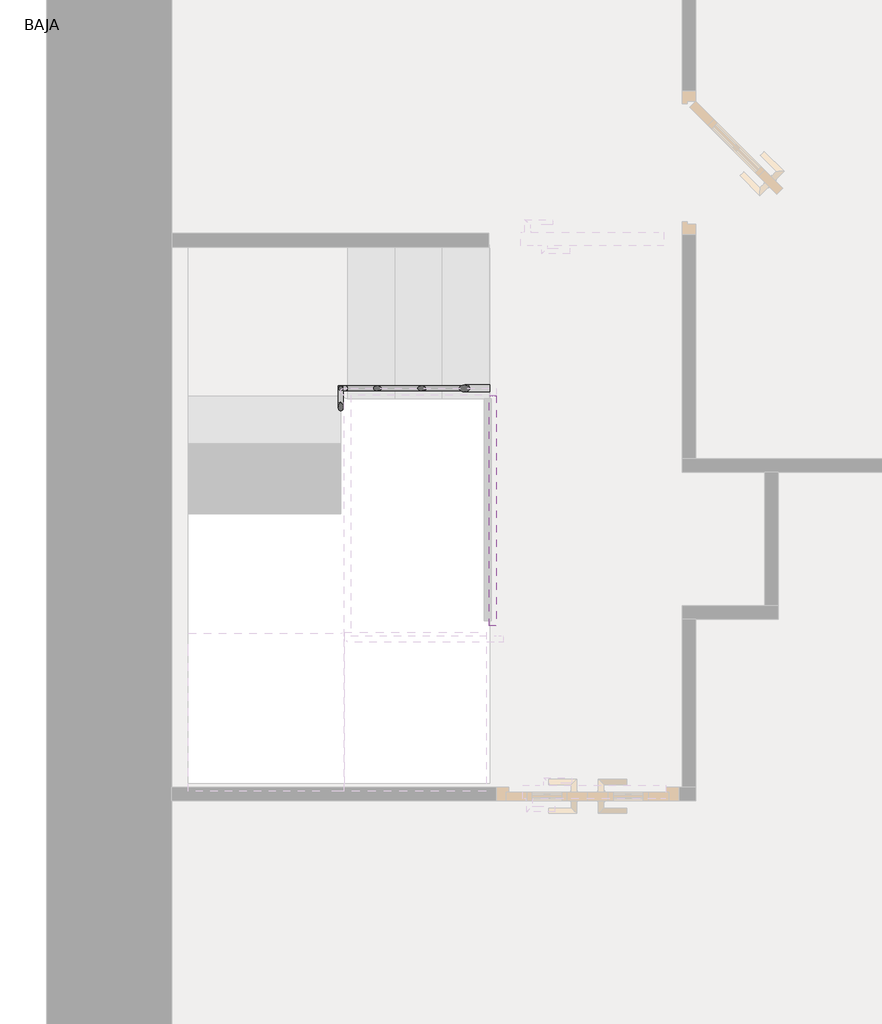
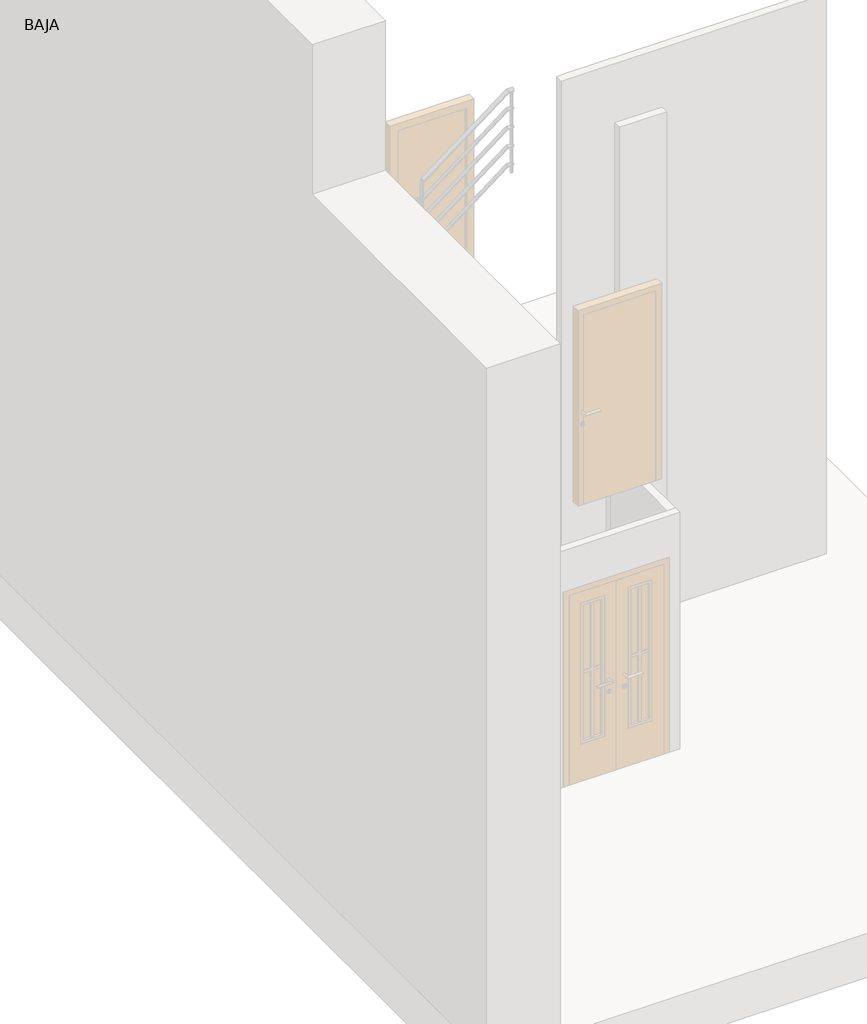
# One storey, part 2 of 3: 2 railings.
"""IFC4 building model written with IfcOpenShell, lengths in millimetres."""

from ifc_helpers import new_model, si_unit, point, frame, frame_2d, origin, place, context, project, spatial, circle_curve, ellipse_curve, trimmed, segment, composite_curve, outline, extrude, element, save
from ifc_brep_helpers import plane_surface, cylinder_surface, advanced_brep

model = new_model("IFC4")

# Units and contexts
model_context = context("Model", 3, world=origin())
ifc_project = project(units=[si_unit("LENGTHUNIT", "METRE", prefix="MILLI")], contexts=[model_context])

# Site, building, storey
site = spatial("IfcSite", under=ifc_project)
building = spatial("IfcBuilding", under=site)
storey = spatial("IfcBuildingStorey", under=building, Name="BAJA", Elevation=4000.0)

# Railings
placement = place(None, origin())
element("IfcRailing", 1, ObjectType="Tubería 900 mm", at=placement, inside=storey, context=model_context, shape_type="SolidModel", body=[
    advanced_brep(
    [(-5082.9130424, -10384.2358592, 5087.9516089), (-5082.9130424, -10424.2358592, 5087.9516089), (-5942.4217865, -10384.2358592, 5745.738913), (-5942.4217865, -10424.2358592, 5745.738913), (-5984.8950445, -10384.2358592, 5943.5301894), (-5980.7116824, -10424.2358592, 5924.0489309)],
    [
        (0, 1, ellipse_curve(frame((-5082.9130424, -10404.2358592, 5087.9516089), z_axis=(1.0, 0.0, 0.0), x_axis=(0.0, 0.0, -1.0)), 25.1848642, 20.0)),
        (1, 0, ellipse_curve(frame((-5082.9130424, -10404.2358592, 5087.9516089), z_axis=(1.0, 0.0, 0.0), x_axis=(0.0, 0.0, -1.0)), 25.1848642, 20.0)),
        (0, 2),
        (2, 3, ellipse_curve(frame((-5942.4217865, -10404.2358592, 5745.738913), z_axis=(0.5350342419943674, 0.0, -0.8448303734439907), x_axis=(0.8448303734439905, 0.0, 0.5350342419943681)), 21.3144193, 20.0)),
        (3, 1),
        (3, 2, ellipse_curve(frame((-5942.4217865, -10404.2358592, 5745.738913), z_axis=(0.5350342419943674, 0.0, -0.8448303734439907), x_axis=(0.8448303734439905, 0.0, 0.5350342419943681)), 21.3144193, 20.0)),
        (4, 5, ellipse_curve(frame((-5982.8033634, -10404.2358592, 5933.7895602), z_axis=(-0.11757965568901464, -0.44473701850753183, 0.8879099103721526), x_axis=(0.2330510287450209, -0.8814996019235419, -0.41066491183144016)), 22.4012828, 20.0)),
        (5, 4, ellipse_curve(frame((-5982.8033634, -10404.2358592, 5933.7895602), z_axis=(-0.11757965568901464, -0.44473701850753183, 0.8879099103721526), x_axis=(0.2330510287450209, -0.8814996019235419, -0.41066491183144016)), 22.4012828, 20.0)),
        (2, 4),
        (5, 3),
    ],
    [
        plane_surface(frame((-5082.9130424, -10404.2358592, 5113.1364731), z_axis=(1.0, 0.0, 0.0), x_axis=(0.0, -1.0, 0.0))),
        cylinder_surface(frame((-5095.0680593, -10404.2358592, 5097.2539177), z_axis=(0.7941277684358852, 0.0, -0.6077508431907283), x_axis=(0.0, -1.0, 0.0)), 20.0),
        plane_surface(frame((-5962.9130424, -10404.2358592, 5936.4234953), z_axis=(-0.11757965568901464, -0.44473701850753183, 0.8879099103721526), x_axis=(0.9930634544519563, -0.052657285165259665, 0.10512937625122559))),
        cylinder_surface(frame((-5943.968953, -10404.2358592, 5752.9438242), z_axis=(0.2099516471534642, 0.0, -0.9777117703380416), x_axis=(0.0, -1.0, 0.0)), 20.0),
    ],
    [
        (0, [[1, 2]]),
        (1, [[-1, 3, 4, 5]]),
        (1, [[-2, -5, 6, -3]]),
        (2, [[7, 8]]),
        (3, [[-4, 9, -8, 10]]),
        (3, [[-6, -10, -7, -9]]),
    ],
),
    advanced_brep(
    [(-5982.9130424, -10422.0344992, 5924.8600393), (-5942.9130424, -10426.2178612, 5928.0615919), (-5982.9130424, -11849.9758253, 7017.6722787), (-5942.9130424, -11849.9758253, 7017.6722787)],
    [
        (0, 1, ellipse_curve(frame((-5962.9130424, -10424.1261802, 5926.4608156), z_axis=(0.11757965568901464, 0.44473701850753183, -0.8879099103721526), x_axis=(-0.23305102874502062, 0.881499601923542, 0.4106649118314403)), 22.4012828, 20.0)),
        (1, 0, ellipse_curve(frame((-5962.9130424, -10424.1261802, 5926.4608156), z_axis=(0.11757965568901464, 0.44473701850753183, -0.8879099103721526), x_axis=(-0.23305102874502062, 0.881499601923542, 0.4106649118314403)), 22.4012828, 20.0)),
        (2, 3, ellipse_curve(frame((-5962.9130424, -11849.9758253, 7017.6722787), z_axis=(0.0, -1.0, 0.0), x_axis=(0.0, 0.0, -1.0)), 25.1848642, 20.0)),
        (3, 2, ellipse_curve(frame((-5962.9130424, -11849.9758253, 7017.6722787), z_axis=(0.0, -1.0, 0.0), x_axis=(0.0, 0.0, -1.0)), 25.1848642, 20.0)),
        (0, 2),
        (3, 1),
    ],
    [
        plane_surface(frame((-5962.9130424, -10404.2358592, 5936.4234953), z_axis=(0.11757965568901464, 0.44473701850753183, -0.8879099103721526), x_axis=(0.9930634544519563, -0.052657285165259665, 0.10512937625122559))),
        plane_surface(frame((-5962.9130424, -11849.9758253, 7042.8571429), z_axis=(0.0, -1.0, 0.0), x_axis=(0.0, 0.0, -1.0))),
        cylinder_surface(frame((-5962.9130424, -10416.390876, 5920.5409399), z_axis=(0.0, 0.7941277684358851, -0.6077508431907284), x_axis=(1.0, 0.0, 0.0)), 20.0),
    ],
    [
        (0, [[1, 2]]),
        (1, [[3, 4]]),
        (2, [[-1, 5, -4, 6]]),
        (2, [[-2, -6, -3, -5]]),
    ],
),
    advanced_brep(
    [(-5962.9130424, -11884.9758253, 7216.6518705), (-5962.9130424, -11844.9758253, 7216.6518705), (-5096.1381532, -11884.9758253, 7880.0), (-5096.1381532, -11844.9758253, 7880.0), (-5041.7727861, -11884.9758253, 7880.0), (-5041.7727861, -11844.9758253, 7880.0)],
    [
        (0, 1, ellipse_curve(frame((-5962.9130424, -11864.9758253, 7216.6518705), z_axis=(-1.0, 0.0, 0.0), x_axis=(0.0, 0.0, -1.0)), 25.1848642, 20.0)),
        (1, 0, ellipse_curve(frame((-5962.9130424, -11864.9758253, 7216.6518705), z_axis=(-1.0, 0.0, 0.0), x_axis=(0.0, 0.0, -1.0)), 25.1848642, 20.0)),
        (0, 2),
        (2, 3, ellipse_curve(frame((-5096.1381532, -11864.9758253, 7880.0), z_axis=(-0.9471345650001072, 0.0, -0.3208365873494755), x_axis=(0.32083658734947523, 0.0, -0.9471345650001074)), 21.1163236, 20.0)),
        (3, 1),
        (3, 2, ellipse_curve(frame((-5096.1381532, -11864.9758253, 7880.0), z_axis=(-0.9471345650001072, 0.0, -0.3208365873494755), x_axis=(0.32083658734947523, 0.0, -0.9471345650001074)), 21.1163236, 20.0)),
        (4, 5, circle_curve(frame((-5041.7727861, -11864.9758253, 7880.0), z_axis=(1.0, 0.0, 0.0), x_axis=(0.0, 1.0, 0.0)), 20.0)),
        (5, 4, circle_curve(frame((-5041.7727861, -11864.9758253, 7880.0), z_axis=(1.0, 0.0, 0.0), x_axis=(0.0, 1.0, 0.0)), 20.0)),
        (2, 4),
        (5, 3),
    ],
    [
        plane_surface(frame((-5962.9130424, -11864.9758253, 7241.8367347), z_axis=(-1.0, 0.0, 0.0), x_axis=(0.0, 1.0, 0.0))),
        cylinder_surface(frame((-5950.7580256, -11864.9758253, 7225.9541793), z_axis=(-0.7941277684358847, 0.0, -0.6077508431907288), x_axis=(0.0, 1.0, 0.0)), 20.0),
        plane_surface(frame((-5041.7727861, -11864.9758253, 7900.0), z_axis=(1.0, 0.0, 0.0), x_axis=(0.0, 1.0, 0.0))),
        cylinder_surface(frame((-5102.9130424, -11864.9758253, 7880.0), z_axis=(-1.0, 0.0, 0.0), x_axis=(0.0, 1.0, 0.0)), 20.0),
    ],
    [
        (0, [[1, 2]]),
        (1, [[-1, 3, 4, 5]]),
        (1, [[-2, -5, 6, -3]]),
        (2, [[7, 8]]),
        (3, [[-4, 9, -8, 10]]),
        (3, [[-6, -10, -7, -9]]),
    ],
),
    advanced_brep(
    [(-5041.7727861, -11879.9758253, 7685.0), (-5041.7727861, -11849.9758253, 7685.0), (-5097.8318755, -11879.9758253, 7685.0), (-5097.8318755, -11849.9758253, 7685.0), (-5977.9130424, -11879.9758253, 7011.4684947), (-5977.9130424, -11849.9758253, 7011.4684947)],
    [
        (0, 1, circle_curve(frame((-5041.7727861, -11864.9758253, 7685.0), z_axis=(1.0, 0.0, 0.0), x_axis=(0.0, 1.0, 0.0)), 15.0)),
        (1, 0, circle_curve(frame((-5041.7727861, -11864.9758253, 7685.0), z_axis=(1.0, 0.0, 0.0), x_axis=(0.0, 1.0, 0.0)), 15.0)),
        (0, 2),
        (2, 3, ellipse_curve(frame((-5097.8318755, -11864.9758253, 7685.0), z_axis=(0.9471345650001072, 0.0, 0.3208365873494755), x_axis=(0.3208365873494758, 0.0, -0.9471345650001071)), 15.8372427, 15.0)),
        (3, 1),
        (3, 2, ellipse_curve(frame((-5097.8318755, -11864.9758253, 7685.0), z_axis=(0.9471345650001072, 0.0, 0.3208365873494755), x_axis=(0.3208365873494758, 0.0, -0.9471345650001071)), 15.8372427, 15.0)),
        (4, 5, ellipse_curve(frame((-5977.9130424, -11864.9758253, 7011.4684947), z_axis=(-1.0, 0.0, 0.0), x_axis=(0.0, 0.0, 1.0)), 18.8886481, 15.0)),
        (5, 4, ellipse_curve(frame((-5977.9130424, -11864.9758253, 7011.4684947), z_axis=(-1.0, 0.0, 0.0), x_axis=(0.0, 0.0, 1.0)), 18.8886481, 15.0)),
        (2, 4),
        (5, 3),
    ],
    [
        plane_surface(frame((-5041.7727861, -11864.9758253, 7700.0), z_axis=(1.0, 0.0, 0.0), x_axis=(0.0, -1.0, 0.0))),
        cylinder_surface(frame((-5041.7727861, -11864.9758253, 7685.0), z_axis=(1.0, 0.0, 0.0), x_axis=(0.0, 1.0, 0.0)), 15.0),
        plane_surface(frame((-5977.9130424, -11864.9758253, 7030.3571429), z_axis=(-1.0, 0.0, 0.0), x_axis=(0.0, -1.0, 0.0))),
        cylinder_surface(frame((-5093.7967798, -11864.9758253, 7688.0880835), z_axis=(0.7941277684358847, 0.0, 0.6077508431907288), x_axis=(0.0, 1.0, 0.0)), 15.0),
    ],
    [
        (0, [[1, 2]]),
        (1, [[-1, 3, 4, 5]]),
        (1, [[-2, -5, 6, -3]]),
        (2, [[7, 8]]),
        (3, [[-4, 9, -8, 10]]),
        (3, [[-6, -10, -7, -9]]),
    ],
),
    advanced_brep(
    [(-5977.9130424, -11864.9758253, 6827.8571429), (-5947.9130424, -11864.9758253, 6827.8571429), (-5977.9130424, -11855.0569922, 6827.8571429), (-5947.9130424, -11855.0569922, 6827.8571429), (-5977.9130424, -10389.2358592, 5706.0552553), (-5947.9130424, -10389.2358592, 5706.0552553)],
    [
        (0, 1, circle_curve(frame((-5962.9130424, -11864.9758253, 6827.8571429), z_axis=(0.0, -1.0, 0.0), x_axis=(1.0, 0.0, 0.0)), 15.0)),
        (1, 0, circle_curve(frame((-5962.9130424, -11864.9758253, 6827.8571429), z_axis=(0.0, -1.0, 0.0), x_axis=(1.0, 0.0, 0.0)), 15.0)),
        (0, 2),
        (2, 3, ellipse_curve(frame((-5962.9130424, -11855.0569922, 6827.8571429), z_axis=(0.0, -0.9471345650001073, 0.3208365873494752), x_axis=(0.0, -0.3208365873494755, -0.9471345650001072)), 15.8372427, 15.0)),
        (3, 1),
        (3, 2, ellipse_curve(frame((-5962.9130424, -11855.0569922, 6827.8571429), z_axis=(0.0, -0.9471345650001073, 0.3208365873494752), x_axis=(0.0, -0.3208365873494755, -0.9471345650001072)), 15.8372427, 15.0)),
        (4, 5, ellipse_curve(frame((-5962.9130424, -10389.2358592, 5706.0552553), z_axis=(0.0, 1.0, 0.0), x_axis=(0.0, 0.0, 1.0)), 18.8886481, 15.0)),
        (5, 4, ellipse_curve(frame((-5962.9130424, -10389.2358592, 5706.0552553), z_axis=(0.0, 1.0, 0.0), x_axis=(0.0, 0.0, 1.0)), 18.8886481, 15.0)),
        (2, 4),
        (5, 3),
    ],
    [
        plane_surface(frame((-5962.9130424, -11864.9758253, 6842.8571429), z_axis=(0.0, -1.0, 0.0), x_axis=(0.0, 0.0, 1.0))),
        cylinder_surface(frame((-5962.9130424, -11864.9758253, 6827.8571429), z_axis=(0.0, -1.0, 0.0), x_axis=(1.0, 0.0, 0.0)), 15.0),
        plane_surface(frame((-5962.9130424, -10389.2358592, 5724.9439035), z_axis=(0.0, 1.0, 0.0), x_axis=(0.0, 0.0, 1.0))),
        cylinder_surface(frame((-5962.9130424, -11859.092088, 6830.9452263), z_axis=(0.0, -0.7941277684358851, 0.6077508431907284), x_axis=(1.0, 0.0, 0.0)), 15.0),
    ],
    [
        (0, [[1, 2]]),
        (1, [[-1, 3, 4, 5]]),
        (1, [[-2, -5, 6, -3]]),
        (2, [[7, 8]]),
        (3, [[-4, 9, -8, 10]]),
        (3, [[-6, -10, -7, -9]]),
    ],
),
    advanced_brep(
    [(-5947.9130424, -10389.2358592, 5542.1428571), (-5947.9130424, -10419.2358592, 5542.1428571), (-5929.4958845, -10389.2358592, 5542.1428571), (-5929.4958845, -10419.2358592, 5542.1428571), (-5082.9130424, -10389.2358592, 4894.2478249), (-5082.9130424, -10419.2358592, 4894.2478249)],
    [
        (0, 1, circle_curve(frame((-5947.9130424, -10404.2358592, 5542.1428571), z_axis=(-1.0, 0.0, 0.0), x_axis=(0.0, -1.0, 0.0)), 15.0)),
        (1, 0, circle_curve(frame((-5947.9130424, -10404.2358592, 5542.1428571), z_axis=(-1.0, 0.0, 0.0), x_axis=(0.0, -1.0, 0.0)), 15.0)),
        (0, 2),
        (2, 3, ellipse_curve(frame((-5929.4958845, -10404.2358592, 5542.1428571), z_axis=(-0.9471345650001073, 0.0, 0.3208365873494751), x_axis=(-0.3208365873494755, 0.0, -0.9471345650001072)), 15.8372427, 15.0)),
        (3, 1),
        (3, 2, ellipse_curve(frame((-5929.4958845, -10404.2358592, 5542.1428571), z_axis=(-0.9471345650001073, 0.0, 0.3208365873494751), x_axis=(-0.3208365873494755, 0.0, -0.9471345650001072)), 15.8372427, 15.0)),
        (4, 5, ellipse_curve(frame((-5082.9130424, -10404.2358592, 4894.2478249), z_axis=(1.0, 0.0, 0.0), x_axis=(0.0, 0.0, 1.0)), 18.8886481, 15.0)),
        (5, 4, ellipse_curve(frame((-5082.9130424, -10404.2358592, 4894.2478249), z_axis=(1.0, 0.0, 0.0), x_axis=(0.0, 0.0, 1.0)), 18.8886481, 15.0)),
        (2, 4),
        (5, 3),
    ],
    [
        plane_surface(frame((-5947.9130424, -10404.2358592, 5557.1428571), z_axis=(-1.0, 0.0, 0.0), x_axis=(0.0, 1.0, 0.0))),
        cylinder_surface(frame((-5947.9130424, -10404.2358592, 5542.1428571), z_axis=(-1.0, 0.0, 0.0), x_axis=(0.0, -1.0, 0.0)), 15.0),
        plane_surface(frame((-5082.9130424, -10404.2358592, 4913.1364731), z_axis=(1.0, 0.0, 0.0), x_axis=(0.0, 1.0, 0.0))),
        cylinder_surface(frame((-5933.5309803, -10404.2358592, 5545.2309406), z_axis=(-0.7941277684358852, 0.0, 0.6077508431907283), x_axis=(0.0, -1.0, 0.0)), 15.0),
    ],
    [
        (0, [[1, 2]]),
        (1, [[-1, 3, 4, 5]]),
        (1, [[-2, -5, 6, -3]]),
        (2, [[7, 8]]),
        (3, [[-4, 9, -8, 10]]),
        (3, [[-6, -10, -7, -9]]),
    ],
),
    advanced_brep(
    [(-5041.7727861, -11879.9758253, 7485.0), (-5041.7727861, -11849.9758253, 7485.0), (-5097.8318755, -11879.9758253, 7485.0), (-5097.8318755, -11849.9758253, 7485.0), (-5977.9130424, -11879.9758253, 6811.4684947), (-5977.9130424, -11849.9758253, 6811.4684947)],
    [
        (0, 1, circle_curve(frame((-5041.7727861, -11864.9758253, 7485.0), z_axis=(1.0, 0.0, 0.0), x_axis=(0.0, 1.0, 0.0)), 15.0)),
        (1, 0, circle_curve(frame((-5041.7727861, -11864.9758253, 7485.0), z_axis=(1.0, 0.0, 0.0), x_axis=(0.0, 1.0, 0.0)), 15.0)),
        (0, 2),
        (2, 3, ellipse_curve(frame((-5097.8318755, -11864.9758253, 7485.0), z_axis=(0.9471345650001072, 0.0, 0.3208365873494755), x_axis=(0.3208365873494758, 0.0, -0.9471345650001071)), 15.8372427, 15.0)),
        (3, 1),
        (3, 2, ellipse_curve(frame((-5097.8318755, -11864.9758253, 7485.0), z_axis=(0.9471345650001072, 0.0, 0.3208365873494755), x_axis=(0.3208365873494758, 0.0, -0.9471345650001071)), 15.8372427, 15.0)),
        (4, 5, ellipse_curve(frame((-5977.9130424, -11864.9758253, 6811.4684947), z_axis=(-1.0, 0.0, 0.0), x_axis=(0.0, 0.0, 1.0)), 18.8886481, 15.0)),
        (5, 4, ellipse_curve(frame((-5977.9130424, -11864.9758253, 6811.4684947), z_axis=(-1.0, 0.0, 0.0), x_axis=(0.0, 0.0, 1.0)), 18.8886481, 15.0)),
        (2, 4),
        (5, 3),
    ],
    [
        plane_surface(frame((-5041.7727861, -11864.9758253, 7500.0), z_axis=(1.0, 0.0, 0.0), x_axis=(0.0, -1.0, 0.0))),
        cylinder_surface(frame((-5041.7727861, -11864.9758253, 7485.0), z_axis=(1.0, 0.0, 0.0), x_axis=(0.0, 1.0, 0.0)), 15.0),
        plane_surface(frame((-5977.9130424, -11864.9758253, 6830.3571429), z_axis=(-1.0, 0.0, 0.0), x_axis=(0.0, -1.0, 0.0))),
        cylinder_surface(frame((-5093.7967798, -11864.9758253, 7488.0880835), z_axis=(0.7941277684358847, 0.0, 0.6077508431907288), x_axis=(0.0, 1.0, 0.0)), 15.0),
    ],
    [
        (0, [[1, 2]]),
        (1, [[-1, 3, 4, 5]]),
        (1, [[-2, -5, 6, -3]]),
        (2, [[7, 8]]),
        (3, [[-4, 9, -8, 10]]),
        (3, [[-6, -10, -7, -9]]),
    ],
),
    advanced_brep(
    [(-5977.9130424, -11864.9758253, 6627.8571429), (-5947.9130424, -11864.9758253, 6627.8571429), (-5977.9130424, -11855.0569922, 6627.8571429), (-5947.9130424, -11855.0569922, 6627.8571429), (-5977.9130424, -10389.2358592, 5506.0552553), (-5947.9130424, -10389.2358592, 5506.0552553)],
    [
        (0, 1, circle_curve(frame((-5962.9130424, -11864.9758253, 6627.8571429), z_axis=(0.0, -1.0, 0.0), x_axis=(1.0, 0.0, 0.0)), 15.0)),
        (1, 0, circle_curve(frame((-5962.9130424, -11864.9758253, 6627.8571429), z_axis=(0.0, -1.0, 0.0), x_axis=(1.0, 0.0, 0.0)), 15.0)),
        (0, 2),
        (2, 3, ellipse_curve(frame((-5962.9130424, -11855.0569922, 6627.8571429), z_axis=(0.0, -0.9471345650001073, 0.3208365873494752), x_axis=(0.0, -0.3208365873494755, -0.9471345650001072)), 15.8372427, 15.0)),
        (3, 1),
        (3, 2, ellipse_curve(frame((-5962.9130424, -11855.0569922, 6627.8571429), z_axis=(0.0, -0.9471345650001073, 0.3208365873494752), x_axis=(0.0, -0.3208365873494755, -0.9471345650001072)), 15.8372427, 15.0)),
        (4, 5, ellipse_curve(frame((-5962.9130424, -10389.2358592, 5506.0552553), z_axis=(0.0, 1.0, 0.0), x_axis=(0.0, 0.0, 1.0)), 18.8886481, 15.0)),
        (5, 4, ellipse_curve(frame((-5962.9130424, -10389.2358592, 5506.0552553), z_axis=(0.0, 1.0, 0.0), x_axis=(0.0, 0.0, 1.0)), 18.8886481, 15.0)),
        (2, 4),
        (5, 3),
    ],
    [
        plane_surface(frame((-5962.9130424, -11864.9758253, 6642.8571429), z_axis=(0.0, -1.0, 0.0), x_axis=(0.0, 0.0, 1.0))),
        cylinder_surface(frame((-5962.9130424, -11864.9758253, 6627.8571429), z_axis=(0.0, -1.0, 0.0), x_axis=(1.0, 0.0, 0.0)), 15.0),
        plane_surface(frame((-5962.9130424, -10389.2358592, 5524.9439035), z_axis=(0.0, 1.0, 0.0), x_axis=(0.0, 0.0, 1.0))),
        cylinder_surface(frame((-5962.9130424, -11859.092088, 6630.9452263), z_axis=(0.0, -0.7941277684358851, 0.6077508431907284), x_axis=(1.0, 0.0, 0.0)), 15.0),
    ],
    [
        (0, [[1, 2]]),
        (1, [[-1, 3, 4, 5]]),
        (1, [[-2, -5, 6, -3]]),
        (2, [[7, 8]]),
        (3, [[-4, 9, -8, 10]]),
        (3, [[-6, -10, -7, -9]]),
    ],
),
    advanced_brep(
    [(-5947.9130424, -10389.2358592, 5342.1428571), (-5947.9130424, -10419.2358592, 5342.1428571), (-5929.4958845, -10389.2358592, 5342.1428571), (-5929.4958845, -10419.2358592, 5342.1428571), (-5082.9130424, -10389.2358592, 4694.2478249), (-5082.9130424, -10419.2358592, 4694.2478249)],
    [
        (0, 1, circle_curve(frame((-5947.9130424, -10404.2358592, 5342.1428571), z_axis=(-1.0, 0.0, 0.0), x_axis=(0.0, -1.0, 0.0)), 15.0)),
        (1, 0, circle_curve(frame((-5947.9130424, -10404.2358592, 5342.1428571), z_axis=(-1.0, 0.0, 0.0), x_axis=(0.0, -1.0, 0.0)), 15.0)),
        (0, 2),
        (2, 3, ellipse_curve(frame((-5929.4958845, -10404.2358592, 5342.1428571), z_axis=(-0.9471345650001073, 0.0, 0.3208365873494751), x_axis=(-0.3208365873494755, 0.0, -0.9471345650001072)), 15.8372427, 15.0)),
        (3, 1),
        (3, 2, ellipse_curve(frame((-5929.4958845, -10404.2358592, 5342.1428571), z_axis=(-0.9471345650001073, 0.0, 0.3208365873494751), x_axis=(-0.3208365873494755, 0.0, -0.9471345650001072)), 15.8372427, 15.0)),
        (4, 5, ellipse_curve(frame((-5082.9130424, -10404.2358592, 4694.2478249), z_axis=(1.0, 0.0, 0.0), x_axis=(0.0, 0.0, 1.0)), 18.8886481, 15.0)),
        (5, 4, ellipse_curve(frame((-5082.9130424, -10404.2358592, 4694.2478249), z_axis=(1.0, 0.0, 0.0), x_axis=(0.0, 0.0, 1.0)), 18.8886481, 15.0)),
        (2, 4),
        (5, 3),
    ],
    [
        plane_surface(frame((-5947.9130424, -10404.2358592, 5357.1428571), z_axis=(-1.0, 0.0, 0.0), x_axis=(0.0, 1.0, 0.0))),
        cylinder_surface(frame((-5947.9130424, -10404.2358592, 5342.1428571), z_axis=(-1.0, 0.0, 0.0), x_axis=(0.0, -1.0, 0.0)), 15.0),
        plane_surface(frame((-5082.9130424, -10404.2358592, 4713.1364731), z_axis=(1.0, 0.0, 0.0), x_axis=(0.0, 1.0, 0.0))),
        cylinder_surface(frame((-5933.5309803, -10404.2358592, 5345.2309406), z_axis=(-0.7941277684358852, 0.0, 0.6077508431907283), x_axis=(0.0, -1.0, 0.0)), 15.0),
    ],
    [
        (0, [[1, 2]]),
        (1, [[-1, 3, 4, 5]]),
        (1, [[-2, -5, 6, -3]]),
        (2, [[7, 8]]),
        (3, [[-4, 9, -8, 10]]),
        (3, [[-6, -10, -7, -9]]),
    ],
),
    advanced_brep(
    [(-5041.7727861, -11879.9758253, 7285.0), (-5041.7727861, -11849.9758253, 7285.0), (-5097.8318755, -11879.9758253, 7285.0), (-5097.8318755, -11849.9758253, 7285.0), (-5977.9130424, -11879.9758253, 6611.4684947), (-5977.9130424, -11849.9758253, 6611.4684947)],
    [
        (0, 1, circle_curve(frame((-5041.7727861, -11864.9758253, 7285.0), z_axis=(1.0, 0.0, 0.0), x_axis=(0.0, 1.0, 0.0)), 15.0)),
        (1, 0, circle_curve(frame((-5041.7727861, -11864.9758253, 7285.0), z_axis=(1.0, 0.0, 0.0), x_axis=(0.0, 1.0, 0.0)), 15.0)),
        (0, 2),
        (2, 3, ellipse_curve(frame((-5097.8318755, -11864.9758253, 7285.0), z_axis=(0.9471345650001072, 0.0, 0.3208365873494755), x_axis=(0.3208365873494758, 0.0, -0.9471345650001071)), 15.8372427, 15.0)),
        (3, 1),
        (3, 2, ellipse_curve(frame((-5097.8318755, -11864.9758253, 7285.0), z_axis=(0.9471345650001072, 0.0, 0.3208365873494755), x_axis=(0.3208365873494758, 0.0, -0.9471345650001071)), 15.8372427, 15.0)),
        (4, 5, ellipse_curve(frame((-5977.9130424, -11864.9758253, 6611.4684947), z_axis=(-1.0, 0.0, 0.0), x_axis=(0.0, 0.0, 1.0)), 18.8886481, 15.0)),
        (5, 4, ellipse_curve(frame((-5977.9130424, -11864.9758253, 6611.4684947), z_axis=(-1.0, 0.0, 0.0), x_axis=(0.0, 0.0, 1.0)), 18.8886481, 15.0)),
        (2, 4),
        (5, 3),
    ],
    [
        plane_surface(frame((-5041.7727861, -11864.9758253, 7300.0), z_axis=(1.0, 0.0, 0.0), x_axis=(0.0, -1.0, 0.0))),
        cylinder_surface(frame((-5041.7727861, -11864.9758253, 7285.0), z_axis=(1.0, 0.0, 0.0), x_axis=(0.0, 1.0, 0.0)), 15.0),
        plane_surface(frame((-5977.9130424, -11864.9758253, 6630.3571429), z_axis=(-1.0, 0.0, 0.0), x_axis=(0.0, -1.0, 0.0))),
        cylinder_surface(frame((-5093.7967798, -11864.9758253, 7288.0880835), z_axis=(0.7941277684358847, 0.0, 0.6077508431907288), x_axis=(0.0, 1.0, 0.0)), 15.0),
    ],
    [
        (0, [[1, 2]]),
        (1, [[-1, 3, 4, 5]]),
        (1, [[-2, -5, 6, -3]]),
        (2, [[7, 8]]),
        (3, [[-4, 9, -8, 10]]),
        (3, [[-6, -10, -7, -9]]),
    ],
),
    advanced_brep(
    [(-5977.9130424, -11864.9758253, 6427.8571429), (-5947.9130424, -11864.9758253, 6427.8571429), (-5977.9130424, -11855.0569922, 6427.8571429), (-5947.9130424, -11855.0569922, 6427.8571429), (-5977.9130424, -10389.2358592, 5306.0552553), (-5947.9130424, -10389.2358592, 5306.0552553)],
    [
        (0, 1, circle_curve(frame((-5962.9130424, -11864.9758253, 6427.8571429), z_axis=(0.0, -1.0, 0.0), x_axis=(1.0, 0.0, 0.0)), 15.0)),
        (1, 0, circle_curve(frame((-5962.9130424, -11864.9758253, 6427.8571429), z_axis=(0.0, -1.0, 0.0), x_axis=(1.0, 0.0, 0.0)), 15.0)),
        (0, 2),
        (2, 3, ellipse_curve(frame((-5962.9130424, -11855.0569922, 6427.8571429), z_axis=(0.0, -0.9471345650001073, 0.3208365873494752), x_axis=(0.0, -0.3208365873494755, -0.9471345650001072)), 15.8372427, 15.0)),
        (3, 1),
        (3, 2, ellipse_curve(frame((-5962.9130424, -11855.0569922, 6427.8571429), z_axis=(0.0, -0.9471345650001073, 0.3208365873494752), x_axis=(0.0, -0.3208365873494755, -0.9471345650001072)), 15.8372427, 15.0)),
        (4, 5, ellipse_curve(frame((-5962.9130424, -10389.2358592, 5306.0552553), z_axis=(0.0, 1.0, 0.0), x_axis=(0.0, 0.0, 1.0)), 18.8886481, 15.0)),
        (5, 4, ellipse_curve(frame((-5962.9130424, -10389.2358592, 5306.0552553), z_axis=(0.0, 1.0, 0.0), x_axis=(0.0, 0.0, 1.0)), 18.8886481, 15.0)),
        (2, 4),
        (5, 3),
    ],
    [
        plane_surface(frame((-5962.9130424, -11864.9758253, 6442.8571429), z_axis=(0.0, -1.0, 0.0), x_axis=(0.0, 0.0, 1.0))),
        cylinder_surface(frame((-5962.9130424, -11864.9758253, 6427.8571429), z_axis=(0.0, -1.0, 0.0), x_axis=(1.0, 0.0, 0.0)), 15.0),
        plane_surface(frame((-5962.9130424, -10389.2358592, 5324.9439035), z_axis=(0.0, 1.0, 0.0), x_axis=(0.0, 0.0, 1.0))),
        cylinder_surface(frame((-5962.9130424, -11859.092088, 6430.9452263), z_axis=(0.0, -0.7941277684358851, 0.6077508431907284), x_axis=(1.0, 0.0, 0.0)), 15.0),
    ],
    [
        (0, [[1, 2]]),
        (1, [[-1, 3, 4, 5]]),
        (1, [[-2, -5, 6, -3]]),
        (2, [[7, 8]]),
        (3, [[-4, 9, -8, 10]]),
        (3, [[-6, -10, -7, -9]]),
    ],
),
    advanced_brep(
    [(-5947.9130424, -10389.2358592, 5142.1428571), (-5947.9130424, -10419.2358592, 5142.1428571), (-5929.4958845, -10389.2358592, 5142.1428571), (-5929.4958845, -10419.2358592, 5142.1428571), (-5082.9130424, -10389.2358592, 4494.2478249), (-5082.9130424, -10419.2358592, 4494.2478249)],
    [
        (0, 1, circle_curve(frame((-5947.9130424, -10404.2358592, 5142.1428571), z_axis=(-1.0, 0.0, 0.0), x_axis=(0.0, -1.0, 0.0)), 15.0)),
        (1, 0, circle_curve(frame((-5947.9130424, -10404.2358592, 5142.1428571), z_axis=(-1.0, 0.0, 0.0), x_axis=(0.0, -1.0, 0.0)), 15.0)),
        (0, 2),
        (2, 3, ellipse_curve(frame((-5929.4958845, -10404.2358592, 5142.1428571), z_axis=(-0.9471345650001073, 0.0, 0.3208365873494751), x_axis=(-0.3208365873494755, 0.0, -0.9471345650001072)), 15.8372427, 15.0)),
        (3, 1),
        (3, 2, ellipse_curve(frame((-5929.4958845, -10404.2358592, 5142.1428571), z_axis=(-0.9471345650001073, 0.0, 0.3208365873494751), x_axis=(-0.3208365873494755, 0.0, -0.9471345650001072)), 15.8372427, 15.0)),
        (4, 5, ellipse_curve(frame((-5082.9130424, -10404.2358592, 4494.2478249), z_axis=(1.0, 0.0, 0.0), x_axis=(0.0, 0.0, 1.0)), 18.8886481, 15.0)),
        (5, 4, ellipse_curve(frame((-5082.9130424, -10404.2358592, 4494.2478249), z_axis=(1.0, 0.0, 0.0), x_axis=(0.0, 0.0, 1.0)), 18.8886481, 15.0)),
        (2, 4),
        (5, 3),
    ],
    [
        plane_surface(frame((-5947.9130424, -10404.2358592, 5157.1428571), z_axis=(-1.0, 0.0, 0.0), x_axis=(0.0, 1.0, 0.0))),
        cylinder_surface(frame((-5947.9130424, -10404.2358592, 5142.1428571), z_axis=(-1.0, 0.0, 0.0), x_axis=(0.0, -1.0, 0.0)), 15.0),
        plane_surface(frame((-5082.9130424, -10404.2358592, 4513.1364731), z_axis=(1.0, 0.0, 0.0), x_axis=(0.0, 1.0, 0.0))),
        cylinder_surface(frame((-5933.5309803, -10404.2358592, 5145.2309406), z_axis=(-0.7941277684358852, 0.0, 0.6077508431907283), x_axis=(0.0, -1.0, 0.0)), 15.0),
    ],
    [
        (0, [[1, 2]]),
        (1, [[-1, 3, 4, 5]]),
        (1, [[-2, -5, 6, -3]]),
        (2, [[7, 8]]),
        (3, [[-4, 9, -8, 10]]),
        (3, [[-6, -10, -7, -9]]),
    ],
),
    advanced_brep(
    [(-5041.7727861, -11879.9758253, 7085.0), (-5041.7727861, -11849.9758253, 7085.0), (-5097.8318755, -11879.9758253, 7085.0), (-5097.8318755, -11849.9758253, 7085.0), (-5977.9130424, -11879.9758253, 6411.4684947), (-5977.9130424, -11849.9758253, 6411.4684947)],
    [
        (0, 1, circle_curve(frame((-5041.7727861, -11864.9758253, 7085.0), z_axis=(1.0, 0.0, 0.0), x_axis=(0.0, 1.0, 0.0)), 15.0)),
        (1, 0, circle_curve(frame((-5041.7727861, -11864.9758253, 7085.0), z_axis=(1.0, 0.0, 0.0), x_axis=(0.0, 1.0, 0.0)), 15.0)),
        (0, 2),
        (2, 3, ellipse_curve(frame((-5097.8318755, -11864.9758253, 7085.0), z_axis=(0.9471345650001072, 0.0, 0.3208365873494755), x_axis=(0.3208365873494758, 0.0, -0.9471345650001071)), 15.8372427, 15.0)),
        (3, 1),
        (3, 2, ellipse_curve(frame((-5097.8318755, -11864.9758253, 7085.0), z_axis=(0.9471345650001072, 0.0, 0.3208365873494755), x_axis=(0.3208365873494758, 0.0, -0.9471345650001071)), 15.8372427, 15.0)),
        (4, 5, ellipse_curve(frame((-5977.9130424, -11864.9758253, 6411.4684947), z_axis=(-1.0, 0.0, 0.0), x_axis=(0.0, 0.0, 1.0)), 18.8886481, 15.0)),
        (5, 4, ellipse_curve(frame((-5977.9130424, -11864.9758253, 6411.4684947), z_axis=(-1.0, 0.0, 0.0), x_axis=(0.0, 0.0, 1.0)), 18.8886481, 15.0)),
        (2, 4),
        (5, 3),
    ],
    [
        plane_surface(frame((-5041.7727861, -11864.9758253, 7100.0), z_axis=(1.0, 0.0, 0.0), x_axis=(0.0, -1.0, 0.0))),
        cylinder_surface(frame((-5041.7727861, -11864.9758253, 7085.0), z_axis=(1.0, 0.0, 0.0), x_axis=(0.0, 1.0, 0.0)), 15.0),
        plane_surface(frame((-5977.9130424, -11864.9758253, 6430.3571429), z_axis=(-1.0, 0.0, 0.0), x_axis=(0.0, -1.0, 0.0))),
        cylinder_surface(frame((-5093.7967798, -11864.9758253, 7088.0880835), z_axis=(0.7941277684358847, 0.0, 0.6077508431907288), x_axis=(0.0, 1.0, 0.0)), 15.0),
    ],
    [
        (0, [[1, 2]]),
        (1, [[-1, 3, 4, 5]]),
        (1, [[-2, -5, 6, -3]]),
        (2, [[7, 8]]),
        (3, [[-4, 9, -8, 10]]),
        (3, [[-6, -10, -7, -9]]),
    ],
),
    advanced_brep(
    [(-5977.9130424, -11864.9758253, 6227.8571429), (-5947.9130424, -11864.9758253, 6227.8571429), (-5977.9130424, -11855.0569922, 6227.8571429), (-5947.9130424, -11855.0569922, 6227.8571429), (-5977.9130424, -10389.2358592, 5106.0552553), (-5947.9130424, -10389.2358592, 5106.0552553)],
    [
        (0, 1, circle_curve(frame((-5962.9130424, -11864.9758253, 6227.8571429), z_axis=(0.0, -1.0, 0.0), x_axis=(1.0, 0.0, 0.0)), 15.0)),
        (1, 0, circle_curve(frame((-5962.9130424, -11864.9758253, 6227.8571429), z_axis=(0.0, -1.0, 0.0), x_axis=(1.0, 0.0, 0.0)), 15.0)),
        (0, 2),
        (2, 3, ellipse_curve(frame((-5962.9130424, -11855.0569922, 6227.8571429), z_axis=(0.0, -0.9471345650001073, 0.3208365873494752), x_axis=(0.0, -0.3208365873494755, -0.9471345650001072)), 15.8372427, 15.0)),
        (3, 1),
        (3, 2, ellipse_curve(frame((-5962.9130424, -11855.0569922, 6227.8571429), z_axis=(0.0, -0.9471345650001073, 0.3208365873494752), x_axis=(0.0, -0.3208365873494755, -0.9471345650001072)), 15.8372427, 15.0)),
        (4, 5, ellipse_curve(frame((-5962.9130424, -10389.2358592, 5106.0552553), z_axis=(0.0, 1.0, 0.0), x_axis=(0.0, 0.0, 1.0)), 18.8886481, 15.0)),
        (5, 4, ellipse_curve(frame((-5962.9130424, -10389.2358592, 5106.0552553), z_axis=(0.0, 1.0, 0.0), x_axis=(0.0, 0.0, 1.0)), 18.8886481, 15.0)),
        (2, 4),
        (5, 3),
    ],
    [
        plane_surface(frame((-5962.9130424, -11864.9758253, 6242.8571429), z_axis=(0.0, -1.0, 0.0), x_axis=(0.0, 0.0, 1.0))),
        cylinder_surface(frame((-5962.9130424, -11864.9758253, 6227.8571429), z_axis=(0.0, -1.0, 0.0), x_axis=(1.0, 0.0, 0.0)), 15.0),
        plane_surface(frame((-5962.9130424, -10389.2358592, 5124.9439035), z_axis=(0.0, 1.0, 0.0), x_axis=(0.0, 0.0, 1.0))),
        cylinder_surface(frame((-5962.9130424, -11859.092088, 6230.9452263), z_axis=(0.0, -0.7941277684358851, 0.6077508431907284), x_axis=(1.0, 0.0, 0.0)), 15.0),
    ],
    [
        (0, [[1, 2]]),
        (1, [[-1, 3, 4, 5]]),
        (1, [[-2, -5, 6, -3]]),
        (2, [[7, 8]]),
        (3, [[-4, 9, -8, 10]]),
        (3, [[-6, -10, -7, -9]]),
    ],
),
    advanced_brep(
    [(-5947.9130424, -10389.2358592, 4942.1428571), (-5947.9130424, -10419.2358592, 4942.1428571), (-5929.4958845, -10389.2358592, 4942.1428571), (-5929.4958845, -10419.2358592, 4942.1428571), (-5082.9130424, -10389.2358592, 4294.2478249), (-5082.9130424, -10419.2358592, 4294.2478249)],
    [
        (0, 1, circle_curve(frame((-5947.9130424, -10404.2358592, 4942.1428571), z_axis=(-1.0, 0.0, 0.0), x_axis=(0.0, -1.0, 0.0)), 15.0)),
        (1, 0, circle_curve(frame((-5947.9130424, -10404.2358592, 4942.1428571), z_axis=(-1.0, 0.0, 0.0), x_axis=(0.0, -1.0, 0.0)), 15.0)),
        (0, 2),
        (2, 3, ellipse_curve(frame((-5929.4958845, -10404.2358592, 4942.1428571), z_axis=(-0.9471345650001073, 0.0, 0.3208365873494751), x_axis=(-0.3208365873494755, 0.0, -0.9471345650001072)), 15.8372427, 15.0)),
        (3, 1),
        (3, 2, ellipse_curve(frame((-5929.4958845, -10404.2358592, 4942.1428571), z_axis=(-0.9471345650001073, 0.0, 0.3208365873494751), x_axis=(-0.3208365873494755, 0.0, -0.9471345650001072)), 15.8372427, 15.0)),
        (4, 5, ellipse_curve(frame((-5082.9130424, -10404.2358592, 4294.2478249), z_axis=(1.0, 0.0, 0.0), x_axis=(0.0, 0.0, 1.0)), 18.8886481, 15.0)),
        (5, 4, ellipse_curve(frame((-5082.9130424, -10404.2358592, 4294.2478249), z_axis=(1.0, 0.0, 0.0), x_axis=(0.0, 0.0, 1.0)), 18.8886481, 15.0)),
        (2, 4),
        (5, 3),
    ],
    [
        plane_surface(frame((-5947.9130424, -10404.2358592, 4957.1428571), z_axis=(-1.0, 0.0, 0.0), x_axis=(0.0, 1.0, 0.0))),
        cylinder_surface(frame((-5947.9130424, -10404.2358592, 4942.1428571), z_axis=(-1.0, 0.0, 0.0), x_axis=(0.0, -1.0, 0.0)), 15.0),
        plane_surface(frame((-5082.9130424, -10404.2358592, 4313.1364731), z_axis=(1.0, 0.0, 0.0), x_axis=(0.0, 1.0, 0.0))),
        cylinder_surface(frame((-5933.5309803, -10404.2358592, 4945.2309406), z_axis=(-0.7941277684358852, 0.0, 0.6077508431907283), x_axis=(0.0, -1.0, 0.0)), 15.0),
    ],
    [
        (0, [[1, 2]]),
        (1, [[-1, 3, 4, 5]]),
        (1, [[-2, -5, 6, -3]]),
        (2, [[7, 8]]),
        (3, [[-4, 9, -8, 10]]),
        (3, [[-6, -10, -7, -9]]),
    ],
),
    advanced_brep(
    [(-5950.4130424, -10864.9758253, 6238.6608839), (-5950.4130424, -10864.9758253, 5285.7142857), (-5975.4130424, -10864.9758253, 5285.7142857), (-5975.4130424, -10864.9758253, 6238.6608839)],
    [
        (0, 1),
        (1, 2, circle_curve(frame((-5962.9130424, -10864.9758253, 5285.7142857), z_axis=(0.0, 0.0, 1.0), x_axis=(-1.0, 0.0, 0.0)), 12.5)),
        (2, 3),
        (3, 0, ellipse_curve(frame((-5962.9130424, -10864.9758253, 6238.6608839), z_axis=(0.0, -0.6077508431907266, -0.7941277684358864), x_axis=(0.0, -0.7941277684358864, 0.6077508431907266)), 15.7405401, 12.5)),
        (0, 3, ellipse_curve(frame((-5962.9130424, -10864.9758253, 6238.6608839), z_axis=(0.0, -0.6077508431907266, -0.7941277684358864), x_axis=(0.0, -0.7941277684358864, 0.6077508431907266)), 15.7405401, 12.5)),
        (2, 1, circle_curve(frame((-5962.9130424, -10864.9758253, 5285.7142857), z_axis=(0.0, 0.0, 1.0), x_axis=(-1.0, 0.0, 0.0)), 12.5)),
    ],
    [
        cylinder_surface(frame((-5962.9130424, -10864.9758253, 5185.7142857), z_axis=(0.0, 0.0, 1.0), x_axis=(-1.0, 0.0, 0.0)), 12.5),
        plane_surface(frame((-5987.9130424, -10839.9758253, 6219.5282308), z_axis=(0.0, 0.6077508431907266, 0.7941277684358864), x_axis=(1.0, 0.0, 0.0))),
        plane_surface(frame((-5987.9130424, -10889.9758253, 5285.7142857), z_axis=(0.0, 0.0, -1.0), x_axis=(1.0, 0.0, 0.0))),
    ],
    [
        (0, [[1, 2, 3, 4]]),
        (0, [[-1, 5, -3, 6]]),
        (1, [[-4, -5]]),
        (2, [[-2, -6]]),
    ],
),
    advanced_brep(
    [(-5950.4130424, -10404.2358592, 5886.0537669), (-5950.4130424, -10404.2358592, 4857.1428571), (-5975.4130424, -10404.2358592, 4857.1428571), (-5975.4130424, -10404.2358592, 5886.0537669)],
    [
        (0, 1),
        (1, 2, circle_curve(frame((-5962.9130424, -10404.2358592, 4857.1428571), z_axis=(0.0, 0.0, 1.0), x_axis=(-1.0, 0.0, 0.0)), 12.5)),
        (2, 3),
        (3, 0, ellipse_curve(frame((-5962.9130424, -10404.2358592, 5886.0537669), z_axis=(0.0, -0.6077508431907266, -0.7941277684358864), x_axis=(0.0, -0.7941277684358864, 0.6077508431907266)), 15.7405401, 12.5)),
        (0, 3, ellipse_curve(frame((-5962.9130424, -10404.2358592, 5886.0537669), z_axis=(0.0, -0.6077508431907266, -0.7941277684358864), x_axis=(0.0, -0.7941277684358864, 0.6077508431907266)), 15.7405401, 12.5)),
        (2, 1, circle_curve(frame((-5962.9130424, -10404.2358592, 4857.1428571), z_axis=(0.0, 0.0, 1.0), x_axis=(-1.0, 0.0, 0.0)), 12.5)),
    ],
    [
        cylinder_surface(frame((-5962.9130424, -10404.2358592, 4757.1428571), z_axis=(0.0, 0.0, 1.0), x_axis=(-1.0, 0.0, 0.0)), 12.5),
        plane_surface(frame((-5987.9130424, -10379.2358592, 5866.9211139), z_axis=(0.0, 0.6077508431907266, 0.7941277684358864), x_axis=(1.0, 0.0, 0.0))),
        plane_surface(frame((-5987.9130424, -10429.2358592, 4857.1428571), z_axis=(0.0, 0.0, -1.0), x_axis=(1.0, 0.0, 0.0))),
    ],
    [
        (0, [[1, 2, 3, 4]]),
        (0, [[-1, 5, -3, 6]]),
        (1, [[-4, -5]]),
        (2, [[-2, -6]]),
    ],
),
    advanced_brep(
    [(-5962.9130424, -11852.4758253, 7191.4670063), (-5962.9130424, -11852.4758253, 6142.8571429), (-5962.9130424, -11877.4758253, 6142.8571429), (-5962.9130424, -11877.4758253, 7191.4670063)],
    [
        (0, 1),
        (1, 2, circle_curve(frame((-5962.9130424, -11864.9758253, 6142.8571429), z_axis=(0.0, 0.0, 1.0), x_axis=(0.0, -1.0, 0.0)), 12.5)),
        (2, 3),
        (3, 0, ellipse_curve(frame((-5962.9130424, -11864.9758253, 7191.4670063), z_axis=(0.6077508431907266, 0.0, -0.7941277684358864), x_axis=(0.7941277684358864, 0.0, 0.6077508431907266)), 15.7405401, 12.5)),
        (0, 3, ellipse_curve(frame((-5962.9130424, -11864.9758253, 7191.4670063), z_axis=(0.6077508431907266, 0.0, -0.7941277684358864), x_axis=(0.7941277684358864, 0.0, 0.6077508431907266)), 15.7405401, 12.5)),
        (2, 1, circle_curve(frame((-5962.9130424, -11864.9758253, 6142.8571429), z_axis=(0.0, 0.0, 1.0), x_axis=(0.0, -1.0, 0.0)), 12.5)),
    ],
    [
        cylinder_surface(frame((-5962.9130424, -11864.9758253, 6042.8571429), z_axis=(0.0, 0.0, 1.0), x_axis=(0.0, -1.0, 0.0)), 12.5),
        plane_surface(frame((-5987.9130424, -11889.9758253, 7172.3343532), z_axis=(-0.6077508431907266, 0.0, 0.7941277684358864), x_axis=(0.0, 1.0, 0.0))),
        plane_surface(frame((-5937.9130424, -11889.9758253, 6142.8571429), z_axis=(0.0, 0.0, -1.0), x_axis=(0.0, 1.0, 0.0))),
    ],
    [
        (0, [[1, 2, 3, 4]]),
        (0, [[-1, 5, -3, 6]]),
        (1, [[-4, -5]]),
        (2, [[-2, -6]]),
    ],
),
    advanced_brep(
    [(-5095.4130424, -10416.7358592, 5072.3330712), (-5095.4130424, -10416.7358592, 4214.2857143), (-5095.4130424, -10391.7358592, 4214.2857143), (-5095.4130424, -10391.7358592, 5072.3330712)],
    [
        (0, 1),
        (1, 2, circle_curve(frame((-5095.4130424, -10404.2358592, 4214.2857143), z_axis=(0.0, 0.0, 1.0), x_axis=(0.0, 1.0, 0.0)), 12.5)),
        (2, 3),
        (3, 0, ellipse_curve(frame((-5095.4130424, -10404.2358592, 5072.3330712), z_axis=(-0.6077508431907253, 0.0, -0.7941277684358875), x_axis=(-0.7941277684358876, 0.0, 0.607750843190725)), 15.7405401, 12.5)),
        (0, 3, ellipse_curve(frame((-5095.4130424, -10404.2358592, 5072.3330712), z_axis=(-0.6077508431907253, 0.0, -0.7941277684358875), x_axis=(-0.7941277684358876, 0.0, 0.607750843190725)), 15.7405401, 12.5)),
        (2, 1, circle_curve(frame((-5095.4130424, -10404.2358592, 4214.2857143), z_axis=(0.0, 0.0, 1.0), x_axis=(0.0, 1.0, 0.0)), 12.5)),
    ],
    [
        cylinder_surface(frame((-5095.4130424, -10404.2358592, 4114.2857143), z_axis=(0.0, 0.0, 1.0), x_axis=(0.0, 1.0, 0.0)), 12.5),
        plane_surface(frame((-5070.4130424, -10379.2358592, 5053.2004181), z_axis=(0.6077508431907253, 0.0, 0.7941277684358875), x_axis=(0.0, -1.0, 0.0))),
        plane_surface(frame((-5120.4130424, -10379.2358592, 4214.2857143), z_axis=(0.0, 0.0, -1.0), x_axis=(0.0, -1.0, 0.0))),
    ],
    [
        (0, [[1, 2, 3, 4]]),
        (0, [[-1, 5, -3, 6]]),
        (1, [[-4, -5]]),
        (2, [[-2, -6]]),
    ],
),
    extrude(outline(composite_curve([segment(trimmed(circle_curve(frame_2d((-5054.2727861, -11864.9758253)), 12.5), [point((-5054.2727861, -11877.4758253))], [point((-5054.2727861, -11852.4758253))], False, "CARTESIAN"), True, "CONTINUOUS"), segment(trimmed(circle_curve(frame_2d((-5054.2727861, -11864.9758253)), 12.5), [point((-5054.2727861, -11852.4758253))], [point((-5054.2727861, -11877.4758253))], False, "CARTESIAN"), True, "CONTINUOUS")], self_intersect=False)), frame((0.0, 0.0, 7000.0), z_axis=(0.0, 0.0, 1.0), x_axis=(1.0, 0.0, 0.0)), (0.0, 0.0, 1.0), 860.0),
])
element("IfcRailing", 2, ObjectType="Tubería 900 mm", at=placement, inside=storey, context=model_context, shape_type="SweptSolid", body=[
    extrude(outline(composite_curve([segment(trimmed(circle_curve(frame_2d((7830.0, -5064.0917474)), 20.0), [point((7830.0, -5084.0917474))], [point((7830.0, -5044.0917474))], False, "CARTESIAN"), True, "CONTINUOUS"), segment(trimmed(circle_curve(frame_2d((7830.0, -5064.0917474)), 20.0), [point((7830.0, -5044.0917474))], [point((7830.0, -5084.0917474))], False, "CARTESIAN"), True, "CONTINUOUS")], self_intersect=False)), frame((0.0, -11807.8495175, 0.0), z_axis=(0.0, 1.0, 0.0), x_axis=(0.0, 0.0, 1.0)), (0.0, 0.0, 1.0), 1360.0),
    extrude(outline(composite_curve([segment(trimmed(circle_curve(frame_2d((7635.0, -5064.0917474)), 15.0), [point((7635.0, -5049.0917474))], [point((7635.0, -5079.0917474))], False, "CARTESIAN"), True, "CONTINUOUS"), segment(trimmed(circle_curve(frame_2d((7635.0, -5064.0917474)), 15.0), [point((7635.0, -5079.0917474))], [point((7635.0, -5049.0917474))], False, "CARTESIAN"), True, "CONTINUOUS")], self_intersect=False)), frame((0.0, -11807.8495175, 0.0), z_axis=(0.0, 1.0, 0.0), x_axis=(0.0, 0.0, 1.0)), (0.0, 0.0, 1.0), 1360.0),
    extrude(outline(composite_curve([segment(trimmed(circle_curve(frame_2d((7435.0, -5064.0917474)), 15.0), [point((7435.0, -5049.0917474))], [point((7435.0, -5079.0917474))], False, "CARTESIAN"), True, "CONTINUOUS"), segment(trimmed(circle_curve(frame_2d((7435.0, -5064.0917474)), 15.0), [point((7435.0, -5079.0917474))], [point((7435.0, -5049.0917474))], False, "CARTESIAN"), True, "CONTINUOUS")], self_intersect=False)), frame((0.0, -11807.8495175, 0.0), z_axis=(0.0, 1.0, 0.0), x_axis=(0.0, 0.0, 1.0)), (0.0, 0.0, 1.0), 1360.0),
    extrude(outline(composite_curve([segment(trimmed(circle_curve(frame_2d((7235.0, -5064.0917474)), 15.0), [point((7235.0, -5049.0917474))], [point((7235.0, -5079.0917474))], False, "CARTESIAN"), True, "CONTINUOUS"), segment(trimmed(circle_curve(frame_2d((7235.0, -5064.0917474)), 15.0), [point((7235.0, -5079.0917474))], [point((7235.0, -5049.0917474))], False, "CARTESIAN"), True, "CONTINUOUS")], self_intersect=False)), frame((0.0, -11807.8495175, 0.0), z_axis=(0.0, 1.0, 0.0), x_axis=(0.0, 0.0, 1.0)), (0.0, 0.0, 1.0), 1360.0),
    extrude(outline(composite_curve([segment(trimmed(circle_curve(frame_2d((7035.0, -5064.0917474)), 15.0), [point((7035.0, -5049.0917474))], [point((7035.0, -5079.0917474))], False, "CARTESIAN"), True, "CONTINUOUS"), segment(trimmed(circle_curve(frame_2d((7035.0, -5064.0917474)), 15.0), [point((7035.0, -5079.0917474))], [point((7035.0, -5049.0917474))], False, "CARTESIAN"), True, "CONTINUOUS")], self_intersect=False)), frame((0.0, -11807.8495175, 0.0), z_axis=(0.0, 1.0, 0.0), x_axis=(0.0, 0.0, 1.0)), (0.0, 0.0, 1.0), 1360.0),
    extrude(outline(composite_curve([segment(trimmed(circle_curve(frame_2d((-5064.0917474, -11447.8495175)), 12.5), [point((-5051.5917474, -11447.8495175))], [point((-5076.5917474, -11447.8495175))], False, "CARTESIAN"), True, "CONTINUOUS"), segment(trimmed(circle_curve(frame_2d((-5064.0917474, -11447.8495175)), 12.5), [point((-5076.5917474, -11447.8495175))], [point((-5051.5917474, -11447.8495175))], False, "CARTESIAN"), True, "CONTINUOUS")], self_intersect=False)), frame((0.0, 0.0, 6950.0), z_axis=(0.0, 0.0, 1.0), x_axis=(1.0, 0.0, 0.0)), (0.0, 0.0, 1.0), 860.0),
    extrude(outline(composite_curve([segment(trimmed(circle_curve(frame_2d((-5064.0917474, -11795.3495175)), 12.5), [point((-5051.5917474, -11795.3495175))], [point((-5076.5917474, -11795.3495175))], False, "CARTESIAN"), True, "CONTINUOUS"), segment(trimmed(circle_curve(frame_2d((-5064.0917474, -11795.3495175)), 12.5), [point((-5076.5917474, -11795.3495175))], [point((-5051.5917474, -11795.3495175))], False, "CARTESIAN"), True, "CONTINUOUS")], self_intersect=False)), frame((0.0, 0.0, 6950.0), z_axis=(0.0, 0.0, 1.0), x_axis=(1.0, 0.0, 0.0)), (0.0, 0.0, 1.0), 860.0),
    extrude(outline(composite_curve([segment(trimmed(circle_curve(frame_2d((-5064.0917474, -10460.3495175)), 12.5), [point((-5051.5917474, -10460.3495175))], [point((-5076.5917474, -10460.3495175))], False, "CARTESIAN"), True, "CONTINUOUS"), segment(trimmed(circle_curve(frame_2d((-5064.0917474, -10460.3495175)), 12.5), [point((-5076.5917474, -10460.3495175))], [point((-5051.5917474, -10460.3495175))], False, "CARTESIAN"), True, "CONTINUOUS")], self_intersect=False)), frame((0.0, 0.0, 6950.0), z_axis=(0.0, 0.0, 1.0), x_axis=(1.0, 0.0, 0.0)), (0.0, 0.0, 1.0), 860.0),
])

save(model, "model.ifc")
